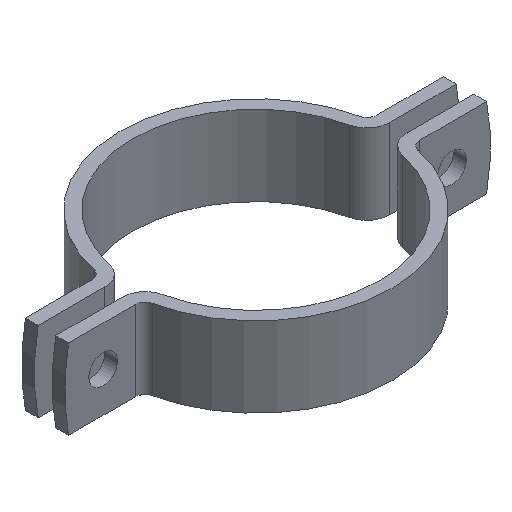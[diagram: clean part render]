
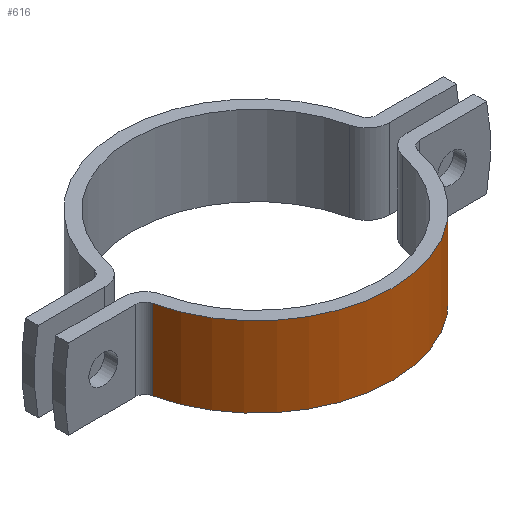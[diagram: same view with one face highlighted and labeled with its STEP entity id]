
A CAD part, isometric view. The second image highlights one B-rep face of the part: STEP entity #616.
In plain terms, the highlighted cylindrical face has radius 85 mm (diameter 170 mm), a partial arc.
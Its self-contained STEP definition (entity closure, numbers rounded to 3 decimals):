
#56 = CARTESIAN_POINT ( 'NONE',  ( 83.026, -18.214, -50. ) ) ;
#105 = CARTESIAN_POINT ( 'NONE',  ( 83.026, -18.214, -50. ) ) ;
#108 = VECTOR ( 'NONE', #1238, 1000. ) ;
#113 = VERTEX_POINT ( 'NONE', #1061 ) ;
#118 = DIRECTION ( 'NONE',  ( 1., 0., 0. ) ) ;
#201 = CARTESIAN_POINT ( 'NONE',  ( -83.026, -18.214, -50. ) ) ;
#209 = CARTESIAN_POINT ( 'NONE',  ( 0., 0., 0. ) ) ;
#283 = VERTEX_POINT ( 'NONE', #327 ) ;
#298 = DIRECTION ( 'NONE',  ( 1., 0., 0. ) ) ;
#313 = DIRECTION ( 'NONE',  ( 0., 0., 1. ) ) ;
#327 = CARTESIAN_POINT ( 'NONE',  ( -83.026, -18.214, -50. ) ) ;
#396 = VERTEX_POINT ( 'NONE', #741 ) ;
#409 = VERTEX_POINT ( 'NONE', #56 ) ;
#469 = ORIENTED_EDGE ( 'NONE', *, *, #761, .T. ) ;
#483 = EDGE_CURVE ( 'NONE', #409, #113, #969, .T. ) ;
#511 = DIRECTION ( 'NONE',  ( 0., 0., 1. ) ) ;
#523 = ORIENTED_EDGE ( 'NONE', *, *, #483, .T. ) ;
#535 = AXIS2_PLACEMENT_3D ( 'NONE', #209, #1080, #298 ) ;
#544 = CYLINDRICAL_SURFACE ( 'NONE', #569, 85. ) ;
#569 = AXIS2_PLACEMENT_3D ( 'NONE', #637, #933, #747 ) ;
#578 = EDGE_LOOP ( 'NONE', ( #808, #1168, #469, #523 ) ) ;
#616 = ADVANCED_FACE ( 'NONE', ( #839 ), #544, .T. ) ;
#634 = CIRCLE ( 'NONE', #1050, 85. ) ;
#637 = CARTESIAN_POINT ( 'NONE',  ( 0., 0., -50. ) ) ;
#741 = CARTESIAN_POINT ( 'NONE',  ( -83.026, -18.214, 0. ) ) ;
#747 = DIRECTION ( 'NONE',  ( 1., 0., 0. ) ) ;
#761 = EDGE_CURVE ( 'NONE', #283, #409, #634, .T. ) ;
#790 = CARTESIAN_POINT ( 'NONE',  ( 0., 0., -50. ) ) ;
#797 = VECTOR ( 'NONE', #511, 1000. ) ;
#808 = ORIENTED_EDGE ( 'NONE', *, *, #1059, .F. ) ;
#839 = FACE_OUTER_BOUND ( 'NONE', #578, .T. ) ;
#871 = CIRCLE ( 'NONE', #535, 85. ) ;
#933 = DIRECTION ( 'NONE',  ( 0., 0., 1. ) ) ;
#969 = LINE ( 'NONE', #105, #108 ) ;
#1050 = AXIS2_PLACEMENT_3D ( 'NONE', #790, #313, #118 ) ;
#1059 = EDGE_CURVE ( 'NONE', #396, #113, #871, .T. ) ;
#1061 = CARTESIAN_POINT ( 'NONE',  ( 83.026, -18.214, 0. ) ) ;
#1065 = LINE ( 'NONE', #201, #797 ) ;
#1079 = EDGE_CURVE ( 'NONE', #283, #396, #1065, .T. ) ;
#1080 = DIRECTION ( 'NONE',  ( 0., 0., 1. ) ) ;
#1168 = ORIENTED_EDGE ( 'NONE', *, *, #1079, .F. ) ;
#1238 = DIRECTION ( 'NONE',  ( 0., 0., 1. ) ) ;
